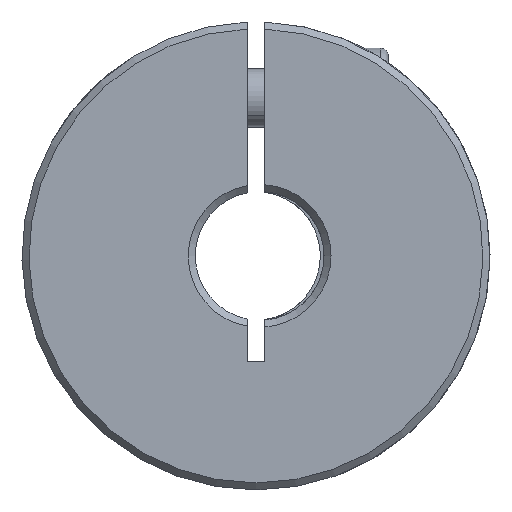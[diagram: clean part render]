
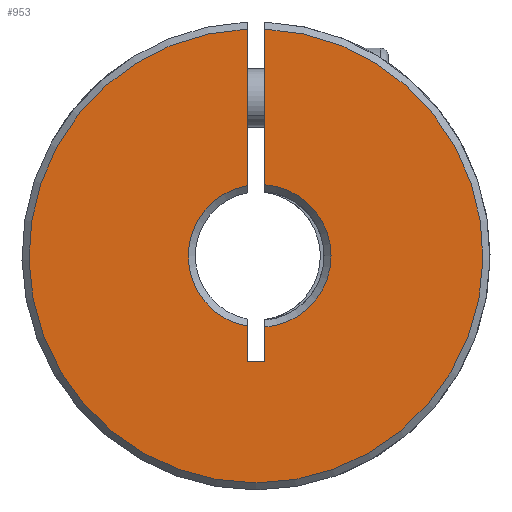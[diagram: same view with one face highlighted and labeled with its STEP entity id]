
A CAD part, front view. The second image highlights one B-rep face of the part: STEP entity #953.
In plain terms, the highlighted planar face has unit normal (0, -1, 0).
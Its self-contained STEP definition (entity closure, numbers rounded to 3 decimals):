
#1 = DIRECTION ( 'NONE',  ( 0., 0., 1. ) ) ;
#12 = VECTOR ( 'NONE', #4489, 1000. ) ;
#52 = VERTEX_POINT ( 'NONE', #3070 ) ;
#77 = DIRECTION ( 'NONE',  ( 0., 0., 1. ) ) ;
#182 = CARTESIAN_POINT ( 'NONE',  ( -0.75, -30., -9. ) ) ;
#217 = DIRECTION ( 'NONE',  ( 0., 1., 0. ) ) ;
#407 = CIRCLE ( 'NONE', #3808, 19.4 ) ;
#412 = VERTEX_POINT ( 'NONE', #4929 ) ;
#507 = VERTEX_POINT ( 'NONE', #2181 ) ;
#581 = DIRECTION ( 'NONE',  ( 0., 0., 1. ) ) ;
#655 = ORIENTED_EDGE ( 'NONE', *, *, #1943, .T. ) ;
#710 = CARTESIAN_POINT ( 'NONE',  ( -0.75, -30., -9. ) ) ;
#765 = CARTESIAN_POINT ( 'NONE',  ( -0.75, -30., -9. ) ) ;
#841 = CARTESIAN_POINT ( 'NONE',  ( -0.75, -30., 19.385 ) ) ;
#953 = ADVANCED_FACE ( 'NONE', ( #1893 ), #3224, .F. ) ;
#969 = DIRECTION ( 'NONE',  ( 0., 0., -1. ) ) ;
#1166 = LINE ( 'NONE', #3966, #4996 ) ;
#1310 = EDGE_CURVE ( 'NONE', #507, #4311, #1166, .T. ) ;
#1527 = LINE ( 'NONE', #182, #1787 ) ;
#1760 = EDGE_CURVE ( 'NONE', #4755, #4865, #4931, .T. ) ;
#1787 = VECTOR ( 'NONE', #581, 1000. ) ;
#1893 = FACE_OUTER_BOUND ( 'NONE', #5453, .T. ) ;
#1943 = EDGE_CURVE ( 'NONE', #4865, #507, #407, .T. ) ;
#1979 = LINE ( 'NONE', #710, #4779 ) ;
#2064 = DIRECTION ( 'NONE',  ( -1., 0., 0. ) ) ;
#2104 = VERTEX_POINT ( 'NONE', #5477 ) ;
#2181 = CARTESIAN_POINT ( 'NONE',  ( 0.75, -30., 19.385 ) ) ;
#2265 = CIRCLE ( 'NONE', #4611, 6.1 ) ;
#2370 = CARTESIAN_POINT ( 'NONE',  ( 0.314, -30., 0. ) ) ;
#2376 = DIRECTION ( 'NONE',  ( 0., -1., 0. ) ) ;
#2619 = ORIENTED_EDGE ( 'NONE', *, *, #3893, .T. ) ;
#2763 = DIRECTION ( 'NONE',  ( 0., 1., 0. ) ) ;
#2976 = ORIENTED_EDGE ( 'NONE', *, *, #4387, .T. ) ;
#3070 = CARTESIAN_POINT ( 'NONE',  ( 0.75, -30., -9. ) ) ;
#3224 = PLANE ( 'NONE',  #5052 ) ;
#3414 = EDGE_CURVE ( 'NONE', #4840, #52, #3693, .T. ) ;
#3423 = ORIENTED_EDGE ( 'NONE', *, *, #3414, .T. ) ;
#3693 = LINE ( 'NONE', #5512, #3988 ) ;
#3752 = CARTESIAN_POINT ( 'NONE',  ( 0., -30., 0. ) ) ;
#3808 = AXIS2_PLACEMENT_3D ( 'NONE', #4716, #2376, #77 ) ;
#3816 = DIRECTION ( 'NONE',  ( 0., 1., 0. ) ) ;
#3870 = CARTESIAN_POINT ( 'NONE',  ( 0.314, -30., 0. ) ) ;
#3893 = EDGE_CURVE ( 'NONE', #52, #2104, #1979, .T. ) ;
#3966 = CARTESIAN_POINT ( 'NONE',  ( 0.75, -30., -9. ) ) ;
#3988 = VECTOR ( 'NONE', #969, 1000. ) ;
#4164 = ORIENTED_EDGE ( 'NONE', *, *, #1760, .T. ) ;
#4222 = ORIENTED_EDGE ( 'NONE', *, *, #6016, .T. ) ;
#4254 = DIRECTION ( 'NONE',  ( 0., 0., 1. ) ) ;
#4304 = DIRECTION ( 'NONE',  ( 0., 0., -1. ) ) ;
#4311 = VERTEX_POINT ( 'NONE', #5274 ) ;
#4375 = DIRECTION ( 'NONE',  ( 0., 0., 1. ) ) ;
#4387 = EDGE_CURVE ( 'NONE', #2104, #412, #1527, .T. ) ;
#4489 = DIRECTION ( 'NONE',  ( 0., 0., 1. ) ) ;
#4611 = AXIS2_PLACEMENT_3D ( 'NONE', #2370, #3816, #4254 ) ;
#4716 = CARTESIAN_POINT ( 'NONE',  ( 0., -30., 0. ) ) ;
#4755 = VERTEX_POINT ( 'NONE', #5872 ) ;
#4779 = VECTOR ( 'NONE', #2064, 1000. ) ;
#4840 = VERTEX_POINT ( 'NONE', #5450 ) ;
#4865 = VERTEX_POINT ( 'NONE', #841 ) ;
#4929 = CARTESIAN_POINT ( 'NONE',  ( -0.75, -30., -6.007 ) ) ;
#4931 = LINE ( 'NONE', #765, #12 ) ;
#4996 = VECTOR ( 'NONE', #4304, 1000. ) ;
#5052 = AXIS2_PLACEMENT_3D ( 'NONE', #3752, #2763, #1 ) ;
#5128 = EDGE_CURVE ( 'NONE', #4311, #4840, #2265, .T. ) ;
#5207 = AXIS2_PLACEMENT_3D ( 'NONE', #3870, #217, #4375 ) ;
#5274 = CARTESIAN_POINT ( 'NONE',  ( 0.75, -30., 6.084 ) ) ;
#5450 = CARTESIAN_POINT ( 'NONE',  ( 0.75, -30., -6.084 ) ) ;
#5453 = EDGE_LOOP ( 'NONE', ( #5606, #5501, #3423, #2619, #2976, #4222, #4164, #655 ) ) ;
#5477 = CARTESIAN_POINT ( 'NONE',  ( -0.75, -30., -9. ) ) ;
#5501 = ORIENTED_EDGE ( 'NONE', *, *, #5128, .T. ) ;
#5512 = CARTESIAN_POINT ( 'NONE',  ( 0.75, -30., -9. ) ) ;
#5606 = ORIENTED_EDGE ( 'NONE', *, *, #1310, .T. ) ;
#5697 = CIRCLE ( 'NONE', #5207, 6.1 ) ;
#5872 = CARTESIAN_POINT ( 'NONE',  ( -0.75, -30., 6.007 ) ) ;
#6016 = EDGE_CURVE ( 'NONE', #412, #4755, #5697, .T. ) ;
